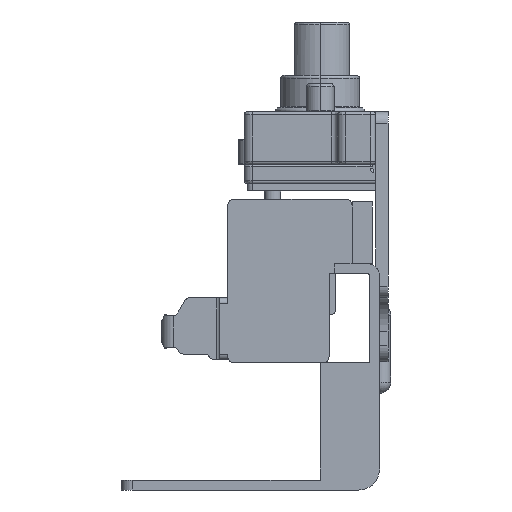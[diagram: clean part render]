
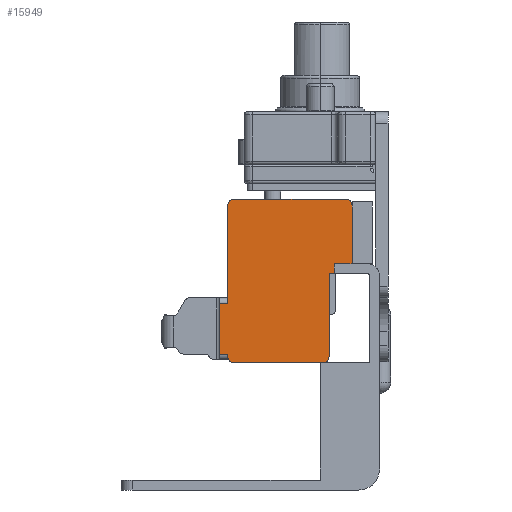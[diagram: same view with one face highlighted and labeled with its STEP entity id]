
A CAD part, left-side view. The second image highlights one B-rep face of the part: STEP entity #15949.
In plain terms, the highlighted planar face has unit normal (-1, 0, 0).
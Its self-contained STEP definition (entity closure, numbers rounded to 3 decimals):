
#18 = VERTEX_POINT ( 'NONE', #12077 ) ;
#94 = ORIENTED_EDGE ( 'NONE', *, *, #11936, .T. ) ;
#206 = ORIENTED_EDGE ( 'NONE', *, *, #12757, .T. ) ;
#222 = EDGE_CURVE ( 'NONE', #6589, #14277, #10521, .T. ) ;
#232 = LINE ( 'NONE', #4847, #3566 ) ;
#274 = LINE ( 'NONE', #8171, #11105 ) ;
#391 = VECTOR ( 'NONE', #12208, 1000. ) ;
#451 = ORIENTED_EDGE ( 'NONE', *, *, #578, .T. ) ;
#456 = VERTEX_POINT ( 'NONE', #2330 ) ;
#574 = CARTESIAN_POINT ( 'NONE',  ( -274.27, -14.333, 71.279 ) ) ;
#578 = EDGE_CURVE ( 'NONE', #2825, #456, #14042, .T. ) ;
#721 = ORIENTED_EDGE ( 'NONE', *, *, #14064, .T. ) ;
#831 = CARTESIAN_POINT ( 'NONE',  ( -274.27, -26.933, 71.279 ) ) ;
#922 = CARTESIAN_POINT ( 'NONE',  ( -274.27, -27.933, 70.279 ) ) ;
#942 = CARTESIAN_POINT ( 'NONE',  ( -274.27, -5.833, 43.249 ) ) ;
#1218 = CARTESIAN_POINT ( 'NONE',  ( -274.27, -5.833, 43.249 ) ) ;
#1237 = CIRCLE ( 'NONE', #16849, 1. ) ;
#1272 = EDGE_CURVE ( 'NONE', #8339, #3739, #8506, .T. ) ;
#1349 = AXIS2_PLACEMENT_3D ( 'NONE', #10956, #15049, #12352 ) ;
#1549 = DIRECTION ( 'NONE',  ( -1., 0., 0. ) ) ;
#1573 = VECTOR ( 'NONE', #1985, 1000. ) ;
#1728 = VERTEX_POINT ( 'NONE', #13183 ) ;
#1810 = CARTESIAN_POINT ( 'NONE',  ( -274.27, -26.933, 70.279 ) ) ;
#1892 = VECTOR ( 'NONE', #17803, 1000. ) ;
#1897 = VECTOR ( 'NONE', #10858, 1000. ) ;
#1985 = DIRECTION ( 'NONE',  ( 0., 1., 0. ) ) ;
#2084 = DIRECTION ( 'NONE',  ( -1., 0., 0. ) ) ;
#2330 = CARTESIAN_POINT ( 'NONE',  ( -274.27, -5.833, 43.249 ) ) ;
#2464 = VERTEX_POINT ( 'NONE', #4109 ) ;
#2825 = VERTEX_POINT ( 'NONE', #8229 ) ;
#2945 = AXIS2_PLACEMENT_3D ( 'NONE', #10006, #1549, #11429 ) ;
#2971 = CARTESIAN_POINT ( 'NONE',  ( -274.27, -23.833, 43.249 ) ) ;
#3096 = AXIS2_PLACEMENT_3D ( 'NONE', #1810, #11692, #3249 ) ;
#3097 = ORIENTED_EDGE ( 'NONE', *, *, #1272, .T. ) ;
#3099 = ORIENTED_EDGE ( 'NONE', *, *, #16716, .F. ) ;
#3189 = EDGE_CURVE ( 'NONE', #5570, #16047, #1237, .T. ) ;
#3249 = DIRECTION ( 'NONE',  ( 0., 0., 1. ) ) ;
#3566 = VECTOR ( 'NONE', #17523, 1000. ) ;
#3739 = VERTEX_POINT ( 'NONE', #922 ) ;
#4109 = CARTESIAN_POINT ( 'NONE',  ( -274.27, -24.788, 59.849 ) ) ;
#4204 = EDGE_LOOP ( 'NONE', ( #94, #4213, #17170, #16446, #16124, #721, #8509, #3097, #206, #10395, #15481, #5948, #10088, #9139, #3099, #451 ) ) ;
#4213 = ORIENTED_EDGE ( 'NONE', *, *, #6862, .T. ) ;
#4481 = VERTEX_POINT ( 'NONE', #831 ) ;
#4564 = EDGE_CURVE ( 'NONE', #13805, #1728, #274, .T. ) ;
#4847 = CARTESIAN_POINT ( 'NONE',  ( -274.27, -4.363, 43.749 ) ) ;
#5055 = EDGE_CURVE ( 'NONE', #4481, #5284, #13271, .T. ) ;
#5057 = DIRECTION ( 'NONE',  ( 0., 0., 1. ) ) ;
#5183 = CARTESIAN_POINT ( 'NONE',  ( -274.27, -6.833, 42.249 ) ) ;
#5284 = VERTEX_POINT ( 'NONE', #9514 ) ;
#5570 = VERTEX_POINT ( 'NONE', #14609 ) ;
#5741 = EDGE_CURVE ( 'NONE', #2464, #8339, #13888, .T. ) ;
#5948 = ORIENTED_EDGE ( 'NONE', *, *, #222, .T. ) ;
#6315 = DIRECTION ( 'NONE',  ( -1., 0., 0. ) ) ;
#6589 = VERTEX_POINT ( 'NONE', #14830 ) ;
#6862 = EDGE_CURVE ( 'NONE', #11829, #5570, #11652, .T. ) ;
#7841 = VECTOR ( 'NONE', #14190, 1000. ) ;
#7924 = CARTESIAN_POINT ( 'NONE',  ( -274.27, -24.788, 59.849 ) ) ;
#8087 = VECTOR ( 'NONE', #9892, 1000. ) ;
#8171 = CARTESIAN_POINT ( 'NONE',  ( -274.27, -4.363, 42.749 ) ) ;
#8229 = CARTESIAN_POINT ( 'NONE',  ( -274.27, -5.833, 43.749 ) ) ;
#8310 = LINE ( 'NONE', #7924, #11597 ) ;
#8339 = VERTEX_POINT ( 'NONE', #17092 ) ;
#8506 = LINE ( 'NONE', #15492, #8087 ) ;
#8509 = ORIENTED_EDGE ( 'NONE', *, *, #5741, .T. ) ;
#8846 = EDGE_CURVE ( 'NONE', #16047, #8954, #13144, .T. ) ;
#8954 = VERTEX_POINT ( 'NONE', #15204 ) ;
#9139 = ORIENTED_EDGE ( 'NONE', *, *, #4564, .F. ) ;
#9165 = CIRCLE ( 'NONE', #2945, 1. ) ;
#9439 = CARTESIAN_POINT ( 'NONE',  ( -274.27, -23.833, 43.249 ) ) ;
#9513 = CARTESIAN_POINT ( 'NONE',  ( -274.27, -27.933, 59.849 ) ) ;
#9514 = CARTESIAN_POINT ( 'NONE',  ( -274.27, -6.833, 71.279 ) ) ;
#9686 = EDGE_CURVE ( 'NONE', #5284, #6589, #9165, .T. ) ;
#9892 = DIRECTION ( 'NONE',  ( 0., 0., 1. ) ) ;
#9972 = CARTESIAN_POINT ( 'NONE',  ( -274.27, -5.833, 52.749 ) ) ;
#10006 = CARTESIAN_POINT ( 'NONE',  ( -274.27, -6.833, 70.279 ) ) ;
#10088 = ORIENTED_EDGE ( 'NONE', *, *, #10732, .F. ) ;
#10126 = VECTOR ( 'NONE', #17929, 1000. ) ;
#10395 = ORIENTED_EDGE ( 'NONE', *, *, #5055, .T. ) ;
#10521 = LINE ( 'NONE', #1218, #13831 ) ;
#10528 = CARTESIAN_POINT ( 'NONE',  ( -274.27, -6.833, 43.249 ) ) ;
#10732 = EDGE_CURVE ( 'NONE', #1728, #14277, #13298, .T. ) ;
#10858 = DIRECTION ( 'NONE',  ( 0., 0., 1. ) ) ;
#10956 = CARTESIAN_POINT ( 'NONE',  ( -274.27, -6.833, 43.249 ) ) ;
#11105 = VECTOR ( 'NONE', #16558, 1000. ) ;
#11429 = DIRECTION ( 'NONE',  ( 0., 0., 1. ) ) ;
#11573 = LINE ( 'NONE', #16923, #7841 ) ;
#11590 = CARTESIAN_POINT ( 'NONE',  ( -274.27, -6.833, 42.249 ) ) ;
#11597 = VECTOR ( 'NONE', #5057, 1000. ) ;
#11652 = LINE ( 'NONE', #5183, #391 ) ;
#11692 = DIRECTION ( 'NONE',  ( -1., 0., 0. ) ) ;
#11829 = VERTEX_POINT ( 'NONE', #11590 ) ;
#11936 = EDGE_CURVE ( 'NONE', #456, #11829, #13070, .T. ) ;
#11951 = DIRECTION ( 'NONE',  ( 0., 0., 1. ) ) ;
#12077 = CARTESIAN_POINT ( 'NONE',  ( -274.27, -24.788, 58.079 ) ) ;
#12208 = DIRECTION ( 'NONE',  ( 0., -1., 0. ) ) ;
#12234 = PLANE ( 'NONE',  #1349 ) ;
#12352 = DIRECTION ( 'NONE',  ( 0., 0., 1. ) ) ;
#12588 = DIRECTION ( 'NONE',  ( 0., -1., 0. ) ) ;
#12757 = EDGE_CURVE ( 'NONE', #3739, #4481, #18092, .T. ) ;
#12777 = CARTESIAN_POINT ( 'NONE',  ( -274.27, -4.363, 43.749 ) ) ;
#13070 = CIRCLE ( 'NONE', #16756, 1. ) ;
#13144 = LINE ( 'NONE', #9439, #1897 ) ;
#13183 = CARTESIAN_POINT ( 'NONE',  ( -274.27, -4.363, 52.749 ) ) ;
#13271 = LINE ( 'NONE', #574, #1573 ) ;
#13298 = LINE ( 'NONE', #15410, #17009 ) ;
#13805 = VERTEX_POINT ( 'NONE', #12777 ) ;
#13806 = EDGE_CURVE ( 'NONE', #8954, #18, #11573, .T. ) ;
#13831 = VECTOR ( 'NONE', #15245, 1000. ) ;
#13888 = LINE ( 'NONE', #9513, #10126 ) ;
#14042 = LINE ( 'NONE', #942, #1892 ) ;
#14064 = EDGE_CURVE ( 'NONE', #18, #2464, #8310, .T. ) ;
#14151 = FACE_OUTER_BOUND ( 'NONE', #4204, .T. ) ;
#14190 = DIRECTION ( 'NONE',  ( 0., -1., 0. ) ) ;
#14277 = VERTEX_POINT ( 'NONE', #9972 ) ;
#14609 = CARTESIAN_POINT ( 'NONE',  ( -274.27, -22.833, 42.249 ) ) ;
#14722 = CARTESIAN_POINT ( 'NONE',  ( -274.27, -22.833, 43.249 ) ) ;
#14830 = CARTESIAN_POINT ( 'NONE',  ( -274.27, -5.833, 70.279 ) ) ;
#15049 = DIRECTION ( 'NONE',  ( 1., 0., 0. ) ) ;
#15204 = CARTESIAN_POINT ( 'NONE',  ( -274.27, -23.833, 58.079 ) ) ;
#15245 = DIRECTION ( 'NONE',  ( 0., 0., -1. ) ) ;
#15410 = CARTESIAN_POINT ( 'NONE',  ( -274.27, -4.363, 52.749 ) ) ;
#15481 = ORIENTED_EDGE ( 'NONE', *, *, #9686, .T. ) ;
#15492 = CARTESIAN_POINT ( 'NONE',  ( -274.27, -27.933, 67.209 ) ) ;
#15949 = ADVANCED_FACE ( 'NONE', ( #14151 ), #12234, .F. ) ;
#16047 = VERTEX_POINT ( 'NONE', #2971 ) ;
#16124 = ORIENTED_EDGE ( 'NONE', *, *, #13806, .T. ) ;
#16127 = DIRECTION ( 'NONE',  ( 0., 0., 1. ) ) ;
#16446 = ORIENTED_EDGE ( 'NONE', *, *, #8846, .T. ) ;
#16558 = DIRECTION ( 'NONE',  ( 0., 0., 1. ) ) ;
#16716 = EDGE_CURVE ( 'NONE', #2825, #13805, #232, .T. ) ;
#16756 = AXIS2_PLACEMENT_3D ( 'NONE', #10528, #2084, #11951 ) ;
#16849 = AXIS2_PLACEMENT_3D ( 'NONE', #14722, #6315, #16127 ) ;
#16923 = CARTESIAN_POINT ( 'NONE',  ( -274.27, -23.833, 58.079 ) ) ;
#17009 = VECTOR ( 'NONE', #12588, 1000. ) ;
#17092 = CARTESIAN_POINT ( 'NONE',  ( -274.27, -27.933, 59.849 ) ) ;
#17170 = ORIENTED_EDGE ( 'NONE', *, *, #3189, .T. ) ;
#17523 = DIRECTION ( 'NONE',  ( 0., 1., 0. ) ) ;
#17803 = DIRECTION ( 'NONE',  ( 0., 0., -1. ) ) ;
#17929 = DIRECTION ( 'NONE',  ( 0., -1., 0. ) ) ;
#18092 = CIRCLE ( 'NONE', #3096, 1. ) ;
